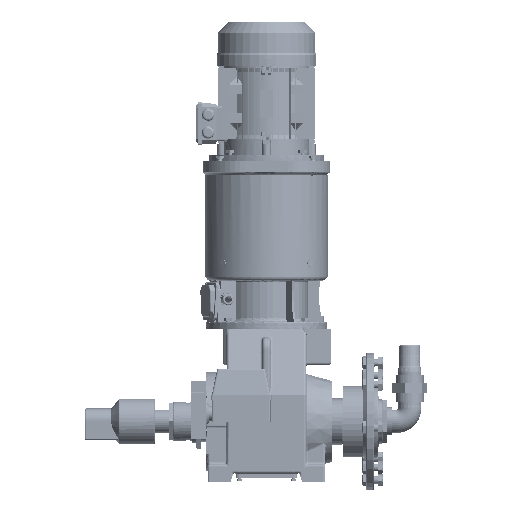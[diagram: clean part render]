
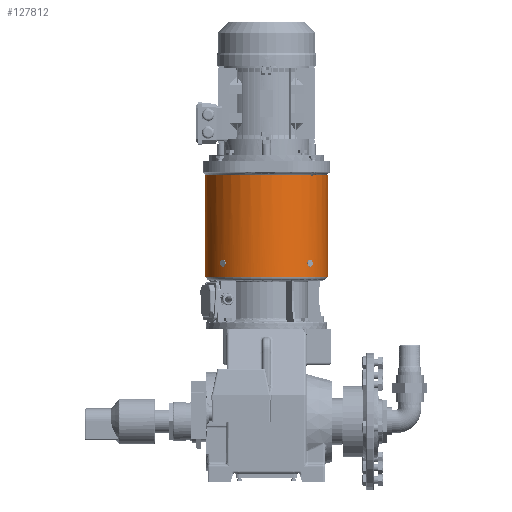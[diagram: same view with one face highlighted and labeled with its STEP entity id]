
A CAD part, left-side view. The second image highlights one B-rep face of the part: STEP entity #127812.
In plain terms, the highlighted cylindrical face has radius 158.77 mm (diameter 317.54 mm), a partial arc.
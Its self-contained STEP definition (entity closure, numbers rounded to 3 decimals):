
#13764=LINE('',#237772,#23339);
#13765=LINE('',#237783,#23340);
#13767=LINE('',#237796,#23342);
#13781=LINE('',#237839,#23356);
#13782=LINE('',#237842,#23357);
#23339=VECTOR('',#169295,18.);
#23340=VECTOR('',#169310,18.);
#23342=VECTOR('',#169326,265.);
#23356=VECTOR('',#169372,265.);
#23357=VECTOR('',#169373,18.);
#29376=CYLINDRICAL_SURFACE('',#138488,158.77);
#30849=FACE_BOUND('',#46219,.T.);
#30850=FACE_BOUND('',#46220,.T.);
#30851=FACE_BOUND('',#46221,.T.);
#37797=FACE_OUTER_BOUND('',#46218,.T.);
#46218=EDGE_LOOP('',(#113396,#113397,#113398,#113399));
#46219=EDGE_LOOP('',(#113400,#113401));
#46220=EDGE_LOOP('',(#113402,#113403));
#46221=EDGE_LOOP('',(#113404,#113405));
#50253=CIRCLE('',#138483,158.77);
#50255=CIRCLE('',#138487,158.77);
#61479=VERTEX_POINT('',#237770);
#61480=VERTEX_POINT('',#237771);
#61482=VERTEX_POINT('',#237781);
#61483=VERTEX_POINT('',#237782);
#61486=VERTEX_POINT('',#237793);
#61487=VERTEX_POINT('',#237795);
#61497=VERTEX_POINT('',#237825);
#61500=VERTEX_POINT('',#237835);
#61501=VERTEX_POINT('',#237840);
#61502=VERTEX_POINT('',#237841);
#78768=EDGE_CURVE('',#61479,#61480,#13764,.T.);
#78772=EDGE_CURVE('',#61482,#61483,#13765,.T.);
#78777=EDGE_CURVE('',#61487,#61486,#13767,.T.);
#78794=EDGE_CURVE('',#61487,#61497,#50253,.T.);
#78798=EDGE_CURVE('',#61486,#61500,#50255,.T.);
#78799=EDGE_CURVE('',#61500,#61497,#13781,.T.);
#78800=EDGE_CURVE('',#61501,#61502,#13782,.T.);
#113396=ORIENTED_EDGE('',*,*,#78799,.T.);
#113397=ORIENTED_EDGE('',*,*,#78794,.F.);
#113398=ORIENTED_EDGE('',*,*,#78777,.T.);
#113399=ORIENTED_EDGE('',*,*,#78798,.T.);
#113400=ORIENTED_EDGE('',*,*,#78768,.T.);
#113401=ORIENTED_EDGE('',*,*,#78768,.F.);
#113402=ORIENTED_EDGE('',*,*,#78772,.T.);
#113403=ORIENTED_EDGE('',*,*,#78772,.F.);
#113404=ORIENTED_EDGE('',*,*,#78800,.T.);
#113405=ORIENTED_EDGE('',*,*,#78800,.F.);
#127812=ADVANCED_FACE('',(#37797,#30849,#30850,#30851),#29376,.T.);
#138483=AXIS2_PLACEMENT_3D('',#237829,#169358,#169359);
#138487=AXIS2_PLACEMENT_3D('',#237837,#169368,#169369);
#138488=AXIS2_PLACEMENT_3D('',#237838,#169370,#169371);
#169295=DIRECTION('',(0.,0.,-1.));
#169310=DIRECTION('',(0.,0.,-1.));
#169326=DIRECTION('',(0.,0.,1.));
#169358=DIRECTION('center_axis',(0.,0.,
-1.));
#169359=DIRECTION('ref_axis',(0.913,0.408,0.));
#169368=DIRECTION('center_axis',(0.,0.,
-1.));
#169369=DIRECTION('ref_axis',(0.913,0.408,0.));
#169370=DIRECTION('center_axis',(0.,0.,
-1.));
#169371=DIRECTION('ref_axis',(0.913,0.408,0.));
#169372=DIRECTION('',(0.,0.,-1.));
#169373=DIRECTION('',(0.,0.,-1.));
#237770=CARTESIAN_POINT('',(148.684,-121.832,334.102));
#237771=CARTESIAN_POINT('',(148.684,-121.832,316.102));
#237772=CARTESIAN_POINT('',(148.684,-121.832,420.602));
#237781=CARTESIAN_POINT('',(-75.851,102.703,334.102));
#237782=CARTESIAN_POINT('',(-75.851,102.703,316.102));
#237783=CARTESIAN_POINT('',(-75.851,102.703,420.602));
#237793=CARTESIAN_POINT('',(181.34,55.282,553.102));
#237795=CARTESIAN_POINT('',(181.34,55.282,288.102));
#237796=CARTESIAN_POINT('',(181.34,55.282,288.102));
#237825=CARTESIAN_POINT('',(179.951,58.303,288.102));
#237829=CARTESIAN_POINT('Origin',(36.417,-9.564,288.102));
#237835=CARTESIAN_POINT('',(179.951,58.303,553.102));
#237837=CARTESIAN_POINT('Origin',(36.417,-9.564,553.102));
#237838=CARTESIAN_POINT('Origin',(36.417,-9.564,420.602));
#237839=CARTESIAN_POINT('',(179.951,58.303,288.102));
#237840=CARTESIAN_POINT('',(-75.851,-121.832,334.102));
#237841=CARTESIAN_POINT('',(-75.851,-121.832,316.102));
#237842=CARTESIAN_POINT('',(-75.851,-121.832,420.602));
